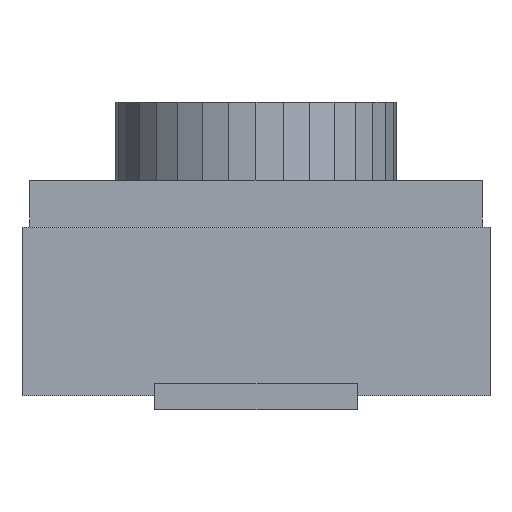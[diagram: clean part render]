
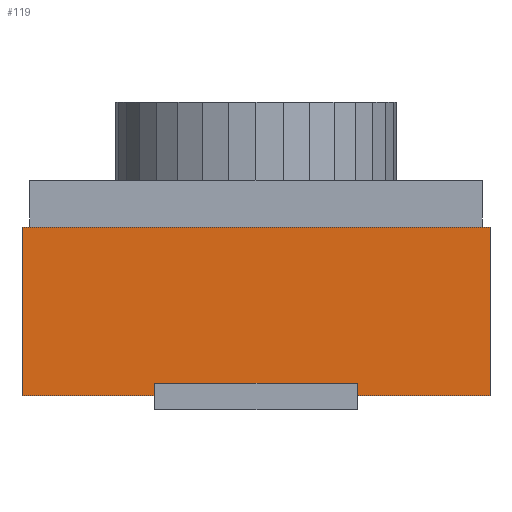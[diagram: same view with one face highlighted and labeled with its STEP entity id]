
A CAD part, left-side view. The second image highlights one B-rep face of the part: STEP entity #119.
In plain terms, the highlighted planar face has unit normal (-1, 0, 0).
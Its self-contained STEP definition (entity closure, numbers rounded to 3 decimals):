
#21 = EDGE_CURVE('',#22,#24,#26,.T.);
#22 = VERTEX_POINT('',#23);
#23 = CARTESIAN_POINT('',(-1.95,-1.5,0.12));
#24 = VERTEX_POINT('',#25);
#25 = CARTESIAN_POINT('',(-1.95,-1.5,1.2));
#26 = LINE('',#27,#28);
#27 = CARTESIAN_POINT('',(-1.95,-1.5,0.12));
#28 = VECTOR('',#29,1.);
#29 = DIRECTION('',(0.,0.,1.));
#94 = VERTEX_POINT('',#95);
#95 = CARTESIAN_POINT('',(-1.95,1.5,1.2));
#101 = EDGE_CURVE('',#102,#94,#104,.T.);
#102 = VERTEX_POINT('',#103);
#103 = CARTESIAN_POINT('',(-1.95,1.5,0.12));
#104 = LINE('',#105,#106);
#105 = CARTESIAN_POINT('',(-1.95,1.5,0.12));
#106 = VECTOR('',#107,1.);
#107 = DIRECTION('',(0.,0.,1.));
#119 = ADVANCED_FACE('',(#120),#136,.F.);
#120 = FACE_BOUND('',#121,.F.);
#121 = EDGE_LOOP('',(#122,#123,#129,#130));
#122 = ORIENTED_EDGE('',*,*,#101,.T.);
#123 = ORIENTED_EDGE('',*,*,#124,.T.);
#124 = EDGE_CURVE('',#94,#24,#125,.T.);
#125 = LINE('',#126,#127);
#126 = CARTESIAN_POINT('',(-1.95,1.5,1.2));
#127 = VECTOR('',#128,1.);
#128 = DIRECTION('',(0.,-1.,0.));
#129 = ORIENTED_EDGE('',*,*,#21,.F.);
#130 = ORIENTED_EDGE('',*,*,#131,.F.);
#131 = EDGE_CURVE('',#102,#22,#132,.T.);
#132 = LINE('',#133,#134);
#133 = CARTESIAN_POINT('',(-1.95,1.5,0.12));
#134 = VECTOR('',#135,1.);
#135 = DIRECTION('',(0.,-1.,0.));
#136 = PLANE('',#137);
#137 = AXIS2_PLACEMENT_3D('',#138,#139,#140);
#138 = CARTESIAN_POINT('',(-1.95,1.5,0.12));
#139 = DIRECTION('',(1.,0.,-0.));
#140 = DIRECTION('',(0.,-1.,0.));
